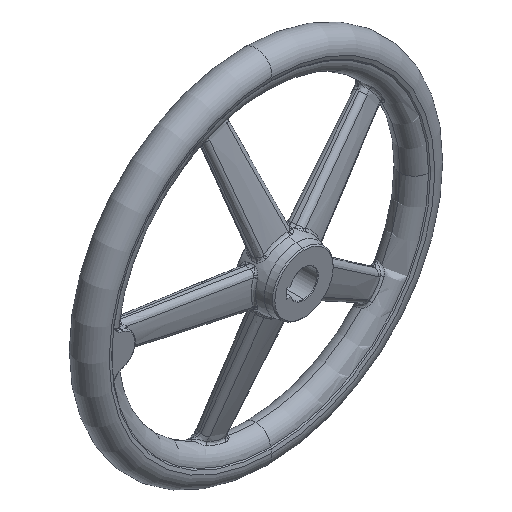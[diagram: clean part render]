
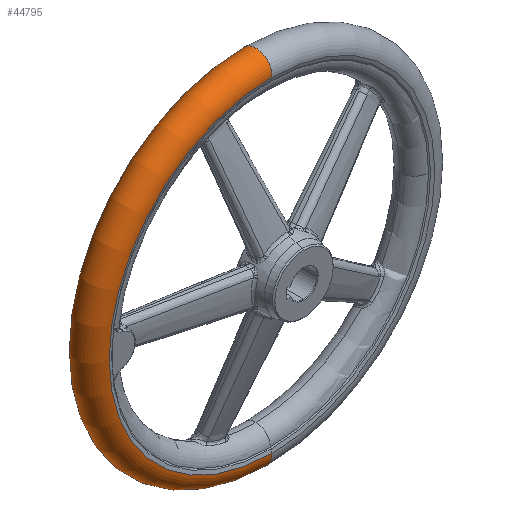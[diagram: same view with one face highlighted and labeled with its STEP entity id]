
A CAD part, isometric view. The second image highlights one B-rep face of the part: STEP entity #44795.
In plain terms, the highlighted toroidal (fillet/blend) face has major radius 143.462 mm and minor radius 14.039 mm.
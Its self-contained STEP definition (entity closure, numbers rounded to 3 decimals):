
#16430 = CARTESIAN_POINT ( 'NONE',  ( 0., 56., 142.423 ) ) ;
#16633 = AXIS2_PLACEMENT_3D ( 'NONE', #16665, #16664, #16663 ) ;
#16663 = DIRECTION ( 'NONE',  ( 0., 0., -1. ) ) ;
#16664 = DIRECTION ( 'NONE',  ( 0., -1., 0. ) ) ;
#16665 = CARTESIAN_POINT ( 'NONE',  ( 0., 56., 0. ) ) ;
#16669 = CIRCLE ( 'NONE', #16633, 142.423 ) ;
#16829 = CARTESIAN_POINT ( 'NONE',  ( 0., 56., -142.423 ) ) ;
#17333 = CIRCLE ( 'NONE', #17338, 14.038 ) ;
#17338 = AXIS2_PLACEMENT_3D ( 'NONE', #17342, #17390, #17382 ) ;
#17342 = CARTESIAN_POINT ( 'NONE',  ( 0., 42., -143.462 ) ) ;
#17382 = DIRECTION ( 'NONE',  ( 0., 0., 1. ) ) ;
#17390 = DIRECTION ( 'NONE',  ( -1., 0., 0. ) ) ;
#21615 = DIRECTION ( 'NONE',  ( 0., -1., 0. ) ) ;
#21618 = AXIS2_PLACEMENT_3D ( 'NONE', #21654, #21615, #21649 ) ;
#21624 = TOROIDAL_SURFACE ( 'NONE', #21618, 143.462, 14.038 ) ;
#21632 = FACE_OUTER_BOUND ( 'NONE', #43672, .T. ) ;
#21649 = DIRECTION ( 'NONE',  ( 0., 0., -1. ) ) ;
#21654 = CARTESIAN_POINT ( 'NONE',  ( 0., 42., 0. ) ) ;
#23505 = CARTESIAN_POINT ( 'NONE',  ( 0., 28., -142.423 ) ) ;
#23544 = CIRCLE ( 'NONE', #23554, 14.038 ) ;
#23554 = AXIS2_PLACEMENT_3D ( 'NONE', #23597, #23596, #23595 ) ;
#23595 = DIRECTION ( 'NONE',  ( 0., 0., -1. ) ) ;
#23596 = DIRECTION ( 'NONE',  ( 1., 0., 0. ) ) ;
#23597 = CARTESIAN_POINT ( 'NONE',  ( 0., 42., 143.462 ) ) ;
#23614 = CIRCLE ( 'NONE', #23636, 142.423 ) ;
#23635 = CARTESIAN_POINT ( 'NONE',  ( 0., 28., 0. ) ) ;
#23636 = AXIS2_PLACEMENT_3D ( 'NONE', #23635, #23655, #23654 ) ;
#23650 = CARTESIAN_POINT ( 'NONE',  ( 0., 28., 142.423 ) ) ;
#23654 = DIRECTION ( 'NONE',  ( 0., 0., -1. ) ) ;
#23655 = DIRECTION ( 'NONE',  ( 0., -1., 0. ) ) ;
#37285 = EDGE_CURVE ( 'NONE', #37353, #37747, #16669, .T. ) ;
#37353 = VERTEX_POINT ( 'NONE', #16430 ) ;
#37747 = VERTEX_POINT ( 'NONE', #16829 ) ;
#39892 = EDGE_CURVE ( 'NONE', #37747, #48014, #17333, .T. ) ;
#43672 = EDGE_LOOP ( 'NONE', ( #44715, #45256, #45252, #44527 ) ) ;
#44527 = ORIENTED_EDGE ( 'NONE', *, *, #48494, .F. ) ;
#44715 = ORIENTED_EDGE ( 'NONE', *, *, #48160, .F. ) ;
#44795 = ADVANCED_FACE ( 'NONE', ( #21632 ), #21624, .T. ) ;
#45252 = ORIENTED_EDGE ( 'NONE', *, *, #39892, .T. ) ;
#45256 = ORIENTED_EDGE ( 'NONE', *, *, #37285, .T. ) ;
#48014 = VERTEX_POINT ( 'NONE', #23505 ) ;
#48160 = EDGE_CURVE ( 'NONE', #37353, #48761, #23544, .T. ) ;
#48494 = EDGE_CURVE ( 'NONE', #48761, #48014, #23614, .T. ) ;
#48761 = VERTEX_POINT ( 'NONE', #23650 ) ;
